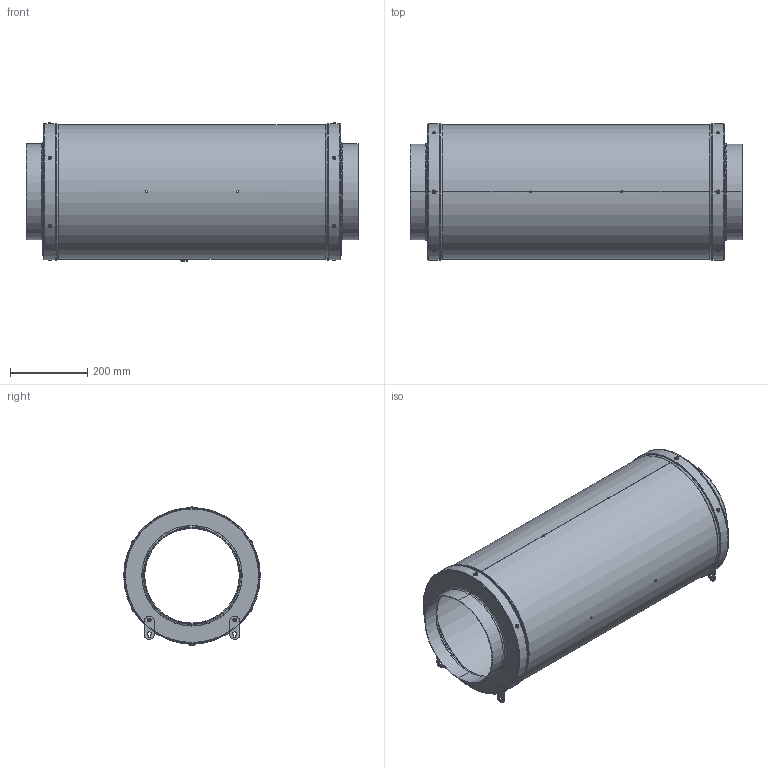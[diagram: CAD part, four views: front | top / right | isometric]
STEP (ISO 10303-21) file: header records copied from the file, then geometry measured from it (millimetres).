
FILE_DESCRIPTION((''),'2;1');
FILE_NAME('250_0001_ASM','2021-01-05T09:51:44',('Administrator'),(''),'CREO PARAMETRIC BY PTC INC, 2019010','CREO PARAMETRIC BY PTC INC, 2019010','');
FILE_SCHEMA(('CONFIG_CONTROL_DESIGN'));
Length unit declared in the file: millimetre
Products named in the file (27): ADMI4D584289EYLC_7; ADMI4D584289EYLC_8; ADMI4D584289EYLC_9; ADMI4D584289EYLC_10; ADMI4D584289EYLC_11; ADMI4D584289EYLC_12; ADMI4D584289EYLC_13; ADMI4D584289EYLC_14; ADMI4D584289EYLC_18; ADMI4D584289EYLC_19; ADMI4D584289EYLC_20; ADMI4D584289EYLC_21; ADMI4D584289EYLC_22; ADMI4D584289EYLC_23; ADMI4D584289EYLC_24; ADMI4D584289EYLC_25; ADMI4D584289EYLC_28; ADMI4D584289EYLC_35; ADMI4D584289EYLC_36; ADMI4D584289EYLC_37; ADMI4D584289EYLC_38; ADMI4D584289EYLC_39; ADMI4D584289EYLC_40; ADMI4D584289EYLC_41; ADMI4D584289EYLC_44; ADMI4D584289EYLC_ASM; 250_0001_ASM
Assembly tree (26 placements, depth 3):
  250_0001_ASM
    ADMI4D584289EYLC_ASM
      ADMI4D584289EYLC_7
      ADMI4D584289EYLC_8
      ADMI4D584289EYLC_9
      ADMI4D584289EYLC_10
      ADMI4D584289EYLC_11
      ADMI4D584289EYLC_12
      ADMI4D584289EYLC_13
      ADMI4D584289EYLC_14
      ADMI4D584289EYLC_18
      ADMI4D584289EYLC_19
      ADMI4D584289EYLC_20
      ADMI4D584289EYLC_21
      ADMI4D584289EYLC_22
      ADMI4D584289EYLC_23
      ADMI4D584289EYLC_24
      ADMI4D584289EYLC_25
      ADMI4D584289EYLC_28
      ADMI4D584289EYLC_35
      ADMI4D584289EYLC_36
      ADMI4D584289EYLC_37
      ADMI4D584289EYLC_38
      ADMI4D584289EYLC_39
      ADMI4D584289EYLC_40
      ADMI4D584289EYLC_41
      ADMI4D584289EYLC_44
Bounding box: 858.6 x 353.4 x 357.62 mm (x, y, z)
Volume: 1237587.8 mm3; surface area: 2145228.9 mm2
Topology: 25 solids, 25 shells, 575 faces, 1524 edges, 988 vertices
Faces by surface type: cylinder 188, plane 169, torus 156, bspline 32, cone 24, sphere 4, extrusion 2
Entity records: 20844 total; most frequent: CARTESIAN_POINT 5646, DIRECTION 3308, ORIENTED_EDGE 3040, EDGE_CURVE 1520, AXIS2_PLACEMENT_3D 1412, VERTEX_POINT 988, CIRCLE 793, EDGE_LOOP 666
